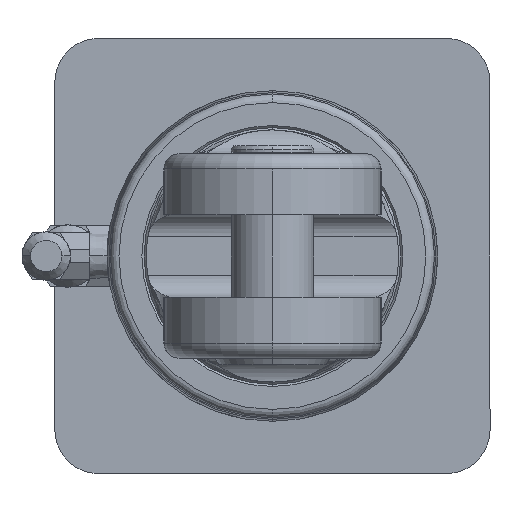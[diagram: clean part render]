
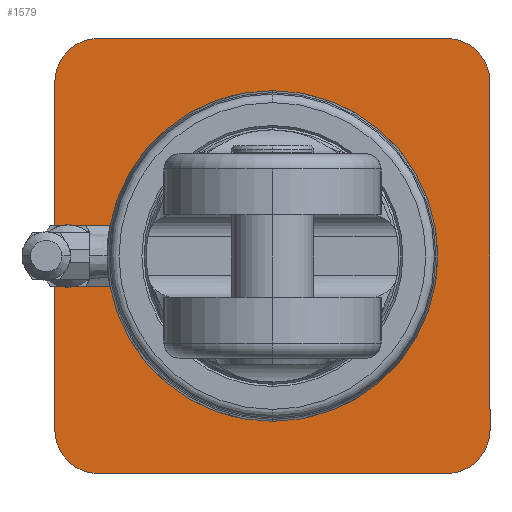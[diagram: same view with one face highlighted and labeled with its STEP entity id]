
A CAD part, left-side view. The second image highlights one B-rep face of the part: STEP entity #1579.
In plain terms, the highlighted planar face has unit normal (-1, 0, 0).
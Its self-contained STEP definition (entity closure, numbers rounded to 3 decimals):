
#66 = DIRECTION ( 'NONE',  ( 0., 1., 0. ) ) ;
#287 = AXIS2_PLACEMENT_3D ( 'NONE', #8448, #4279, #2841 ) ;
#347 = VERTEX_POINT ( 'NONE', #7571 ) ;
#419 = CARTESIAN_POINT ( 'NONE',  ( 147.579, 0., 0. ) ) ;
#548 = DIRECTION ( 'NONE',  ( 1., 0., 0. ) ) ;
#588 = CARTESIAN_POINT ( 'NONE',  ( 147.579, -50., -40. ) ) ;
#758 = LINE ( 'NONE', #5892, #4182 ) ;
#817 = EDGE_CURVE ( 'NONE', #1210, #3580, #4866, .T. ) ;
#847 = VERTEX_POINT ( 'NONE', #588 ) ;
#868 = FACE_OUTER_BOUND ( 'NONE', #6544, .T. ) ;
#1099 = DIRECTION ( 'NONE',  ( 0., 1., 0. ) ) ;
#1210 = VERTEX_POINT ( 'NONE', #1490 ) ;
#1233 = VECTOR ( 'NONE', #7451, 1000. ) ;
#1253 = ORIENTED_EDGE ( 'NONE', *, *, #2781, .F. ) ;
#1268 = CARTESIAN_POINT ( 'NONE',  ( 147.579, 40., 40. ) ) ;
#1372 = CARTESIAN_POINT ( 'NONE',  ( 147.579, 40., -50. ) ) ;
#1490 = CARTESIAN_POINT ( 'NONE',  ( 147.579, 50., 40. ) ) ;
#1579 = ADVANCED_FACE ( 'NONE', ( #7150, #868 ), #7931, .F. ) ;
#1616 = VERTEX_POINT ( 'NONE', #7993 ) ;
#1696 = CARTESIAN_POINT ( 'NONE',  ( 147.579, -50., 40. ) ) ;
#1829 = CARTESIAN_POINT ( 'NONE',  ( 147.579, 0., 35. ) ) ;
#1957 = DIRECTION ( 'NONE',  ( 1., 0., 0. ) ) ;
#1996 = CIRCLE ( 'NONE', #6466, 10. ) ;
#2042 = ORIENTED_EDGE ( 'NONE', *, *, #6907, .F. ) ;
#2097 = DIRECTION ( 'NONE',  ( 0., 0., -1. ) ) ;
#2110 = ORIENTED_EDGE ( 'NONE', *, *, #817, .F. ) ;
#2317 = ORIENTED_EDGE ( 'NONE', *, *, #5402, .F. ) ;
#2503 = CARTESIAN_POINT ( 'NONE',  ( 147.579, 40., -40. ) ) ;
#2781 = EDGE_CURVE ( 'NONE', #5691, #3981, #4881, .T. ) ;
#2841 = DIRECTION ( 'NONE',  ( 0., 1., 0. ) ) ;
#3039 = EDGE_CURVE ( 'NONE', #3981, #1210, #758, .T. ) ;
#3093 = VERTEX_POINT ( 'NONE', #6608 ) ;
#3238 = LINE ( 'NONE', #8346, #7083 ) ;
#3481 = DIRECTION ( 'NONE',  ( 1., 0., 0. ) ) ;
#3580 = VERTEX_POINT ( 'NONE', #8823 ) ;
#3695 = DIRECTION ( 'NONE',  ( 1., 0., 0. ) ) ;
#3929 = DIRECTION ( 'NONE',  ( 0., -1., 0. ) ) ;
#3948 = CIRCLE ( 'NONE', #5919, 10. ) ;
#3981 = VERTEX_POINT ( 'NONE', #8528 ) ;
#4119 = EDGE_CURVE ( 'NONE', #1616, #4236, #5417, .T. ) ;
#4182 = VECTOR ( 'NONE', #5444, 1000. ) ;
#4193 = VERTEX_POINT ( 'NONE', #1696 ) ;
#4236 = VERTEX_POINT ( 'NONE', #1829 ) ;
#4249 = DIRECTION ( 'NONE',  ( 1., 0., 0. ) ) ;
#4273 = ORIENTED_EDGE ( 'NONE', *, *, #4119, .T. ) ;
#4279 = DIRECTION ( 'NONE',  ( 1., 0., 0. ) ) ;
#4308 = DIRECTION ( 'NONE',  ( 0., -1., 0. ) ) ;
#4415 = DIRECTION ( 'NONE',  ( 0., 1., 0. ) ) ;
#4430 = ORIENTED_EDGE ( 'NONE', *, *, #7945, .F. ) ;
#4593 = CARTESIAN_POINT ( 'NONE',  ( 147.579, -40., -50. ) ) ;
#4847 = VECTOR ( 'NONE', #3929, 1000. ) ;
#4866 = CIRCLE ( 'NONE', #6336, 10. ) ;
#4881 = CIRCLE ( 'NONE', #5316, 10. ) ;
#5045 = ORIENTED_EDGE ( 'NONE', *, *, #6860, .T. ) ;
#5305 = EDGE_CURVE ( 'NONE', #347, #5691, #5870, .T. ) ;
#5316 = AXIS2_PLACEMENT_3D ( 'NONE', #2503, #4249, #1099 ) ;
#5346 = CARTESIAN_POINT ( 'NONE',  ( 147.579, -40., 50. ) ) ;
#5402 = EDGE_CURVE ( 'NONE', #3093, #4193, #3948, .T. ) ;
#5417 = CIRCLE ( 'NONE', #8087, 35. ) ;
#5444 = DIRECTION ( 'NONE',  ( 0., 0., 1. ) ) ;
#5479 = CARTESIAN_POINT ( 'NONE',  ( 147.579, -40., -40. ) ) ;
#5691 = VERTEX_POINT ( 'NONE', #1372 ) ;
#5757 = EDGE_CURVE ( 'NONE', #4193, #847, #3238, .T. ) ;
#5870 = LINE ( 'NONE', #4593, #1233 ) ;
#5892 = CARTESIAN_POINT ( 'NONE',  ( 147.579, 50., 40. ) ) ;
#5919 = AXIS2_PLACEMENT_3D ( 'NONE', #8404, #8105, #66 ) ;
#6336 = AXIS2_PLACEMENT_3D ( 'NONE', #1268, #3481, #4308 ) ;
#6466 = AXIS2_PLACEMENT_3D ( 'NONE', #5479, #548, #4415 ) ;
#6544 = EDGE_LOOP ( 'NONE', ( #4430, #2110, #7752, #1253, #7766, #2042, #7104, #2317 ) ) ;
#6608 = CARTESIAN_POINT ( 'NONE',  ( 147.579, -40., 50. ) ) ;
#6860 = EDGE_CURVE ( 'NONE', #4236, #1616, #8909, .T. ) ;
#6907 = EDGE_CURVE ( 'NONE', #847, #347, #1996, .T. ) ;
#6969 = AXIS2_PLACEMENT_3D ( 'NONE', #8745, #3695, #7473 ) ;
#7037 = DIRECTION ( 'NONE',  ( 0., 0., -1. ) ) ;
#7064 = EDGE_LOOP ( 'NONE', ( #5045, #4273 ) ) ;
#7083 = VECTOR ( 'NONE', #2097, 1000. ) ;
#7104 = ORIENTED_EDGE ( 'NONE', *, *, #5757, .F. ) ;
#7150 = FACE_BOUND ( 'NONE', #7064, .T. ) ;
#7451 = DIRECTION ( 'NONE',  ( 0., 1., 0. ) ) ;
#7473 = DIRECTION ( 'NONE',  ( 0., 0., -1. ) ) ;
#7571 = CARTESIAN_POINT ( 'NONE',  ( 147.579, -40., -50. ) ) ;
#7752 = ORIENTED_EDGE ( 'NONE', *, *, #3039, .F. ) ;
#7766 = ORIENTED_EDGE ( 'NONE', *, *, #5305, .F. ) ;
#7931 = PLANE ( 'NONE',  #287 ) ;
#7945 = EDGE_CURVE ( 'NONE', #3580, #3093, #8287, .T. ) ;
#7993 = CARTESIAN_POINT ( 'NONE',  ( 147.579, 0., -35. ) ) ;
#8087 = AXIS2_PLACEMENT_3D ( 'NONE', #419, #1957, #7037 ) ;
#8105 = DIRECTION ( 'NONE',  ( 1., 0., 0. ) ) ;
#8287 = LINE ( 'NONE', #5346, #4847 ) ;
#8346 = CARTESIAN_POINT ( 'NONE',  ( 147.579, -50., 40. ) ) ;
#8404 = CARTESIAN_POINT ( 'NONE',  ( 147.579, -40., 40. ) ) ;
#8448 = CARTESIAN_POINT ( 'NONE',  ( 147.579, 0., 50. ) ) ;
#8528 = CARTESIAN_POINT ( 'NONE',  ( 147.579, 50., -40. ) ) ;
#8745 = CARTESIAN_POINT ( 'NONE',  ( 147.579, 0., 0. ) ) ;
#8823 = CARTESIAN_POINT ( 'NONE',  ( 147.579, 40., 50. ) ) ;
#8909 = CIRCLE ( 'NONE', #6969, 35. ) ;
